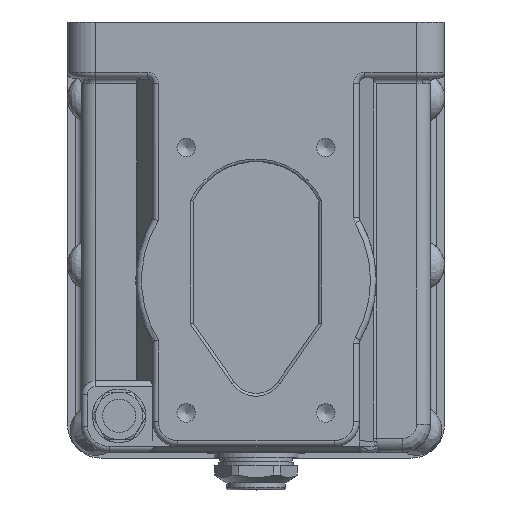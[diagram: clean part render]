
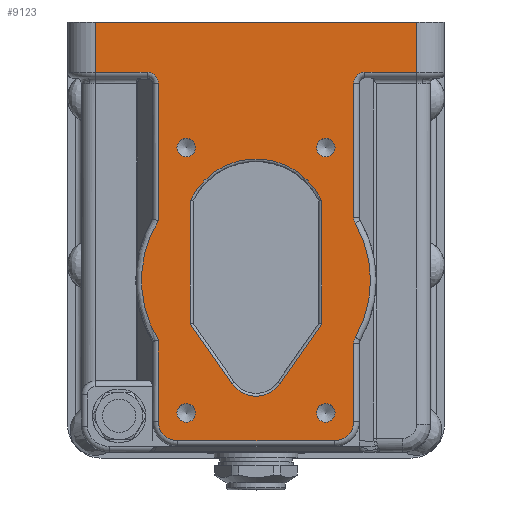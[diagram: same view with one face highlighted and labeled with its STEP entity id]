
A CAD part, top view. The second image highlights one B-rep face of the part: STEP entity #9123.
In plain terms, the highlighted planar face has unit normal (0, 0, 1).
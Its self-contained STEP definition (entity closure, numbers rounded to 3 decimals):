
#6096=CARTESIAN_POINT('',(-21.676,-65.,145.0));
#6097=VERTEX_POINT('',#6096);
#6098=CARTESIAN_POINT('',(-25.,-65.,145.0));
#6099=DIRECTION('',(0.0,0.0,-1.0));
#6100=DIRECTION('',(1.0,0.0,0.0));
#6101=AXIS2_PLACEMENT_3D('',#6098,#6099,#6100);
#6102=CIRCLE('',#6101,3.324);
#6103=EDGE_CURVE('',#6097,#6097,#6102,.T.);
#6133=CARTESIAN_POINT('',(-21.677,30.,145.0));
#6134=VERTEX_POINT('',#6133);
#6135=CARTESIAN_POINT('',(-25.,30.,145.0));
#6136=DIRECTION('',(0.0,0.0,-1.0));
#6137=DIRECTION('',(1.0,0.0,0.0));
#6138=AXIS2_PLACEMENT_3D('',#6135,#6136,#6137);
#6139=CIRCLE('',#6138,3.324);
#6140=EDGE_CURVE('',#6134,#6134,#6139,.T.);
#6170=CARTESIAN_POINT('',(28.323,30.0,145.0));
#6171=VERTEX_POINT('',#6170);
#6172=CARTESIAN_POINT('',(25.0,30.0,145.0));
#6173=DIRECTION('',(0.0,0.0,-1.0));
#6174=DIRECTION('',(1.0,0.0,0.0));
#6175=AXIS2_PLACEMENT_3D('',#6172,#6173,#6174);
#6176=CIRCLE('',#6175,3.324);
#6177=EDGE_CURVE('',#6171,#6171,#6176,.T.);
#6207=CARTESIAN_POINT('',(28.324,-65.,145.0));
#6208=VERTEX_POINT('',#6207);
#6209=CARTESIAN_POINT('',(25.,-65.,145.0));
#6210=DIRECTION('',(0.0,0.0,-1.0));
#6211=DIRECTION('',(1.0,0.0,0.0));
#6212=AXIS2_PLACEMENT_3D('',#6209,#6210,#6211);
#6213=CIRCLE('',#6212,3.324);
#6214=EDGE_CURVE('',#6208,#6208,#6213,.T.);
#8881=CARTESIAN_POINT('',(-28.,-75.,145.0));
#8882=VERTEX_POINT('',#8881);
#8883=CARTESIAN_POINT('',(-35.,-68.0,145.0));
#8884=VERTEX_POINT('',#8883);
#8885=CARTESIAN_POINT('',(-28.,-68.,145.0));
#8886=DIRECTION('',(0.0,0.0,-1.0));
#8887=DIRECTION('',(-0.707,-0.707,0.0));
#8888=AXIS2_PLACEMENT_3D('',#8885,#8886,#8887);
#8889=CIRCLE('',#8888,7.);
#8890=EDGE_CURVE('',#8882,#8884,#8889,.T.);
#8910=CARTESIAN_POINT('',(-38.753,-17.5,145.0));
#8911=DIRECTION('',(0.0,0.0,1.0));
#8912=DIRECTION('',(1.0,0.0,0.0));
#8913=AXIS2_PLACEMENT_3D('',#8910,#8911,#8912);
#8914=PLANE('',#8913);
#8915=CARTESIAN_POINT('',(35.,-68.,145.0));
#8916=VERTEX_POINT('',#8915);
#8917=CARTESIAN_POINT('',(28.,-75.,145.0));
#8918=VERTEX_POINT('',#8917);
#8919=CARTESIAN_POINT('',(28.,-68.,145.0));
#8920=DIRECTION('',(0.0,0.0,-1.0));
#8921=DIRECTION('',(0.707,-0.707,0.0));
#8922=AXIS2_PLACEMENT_3D('',#8919,#8920,#8921);
#8923=CIRCLE('',#8922,7.);
#8924=EDGE_CURVE('',#8916,#8918,#8923,.T.);
#8925=ORIENTED_EDGE('',*,*,#8924,.F.);
#8926=CARTESIAN_POINT('',(35.,-39.95,145.0));
#8927=VERTEX_POINT('',#8926);
#8928=CARTESIAN_POINT('',(35.,-39.95,145.0));
#8929=DIRECTION('',(0.0,-1.0,0.0));
#8930=VECTOR('',#8929,28.05);
#8931=LINE('',#8928,#8930);
#8932=EDGE_CURVE('',#8927,#8916,#8931,.T.);
#8933=ORIENTED_EDGE('',*,*,#8932,.F.);
#8934=CARTESIAN_POINT('',(35.533,-37.954,145.0));
#8935=VERTEX_POINT('',#8934);
#8936=CARTESIAN_POINT('',(39.,-39.95,145.0));
#8937=DIRECTION('',(0.0,0.0,1.0));
#8938=DIRECTION('',(-0.966,0.258,0.0));
#8939=AXIS2_PLACEMENT_3D('',#8936,#8937,#8938);
#8940=CIRCLE('',#8939,4.0);
#8941=EDGE_CURVE('',#8935,#8927,#8940,.T.);
#8942=ORIENTED_EDGE('',*,*,#8941,.F.);
#8943=CARTESIAN_POINT('',(35.533,2.954,145.0));
#8944=VERTEX_POINT('',#8943);
#8945=CARTESIAN_POINT('',(0.0,-17.5,145.0));
#8946=DIRECTION('',(0.0,0.0,-1.0));
#8947=DIRECTION('',(1.0,0.0,0.0));
#8948=AXIS2_PLACEMENT_3D('',#8945,#8946,#8947);
#8949=CIRCLE('',#8948,41.0);
#8950=EDGE_CURVE('',#8944,#8935,#8949,.T.);
#8951=ORIENTED_EDGE('',*,*,#8950,.F.);
#8952=CARTESIAN_POINT('',(35.,4.95,145.0));
#8953=VERTEX_POINT('',#8952);
#8954=CARTESIAN_POINT('',(39.,4.95,145.0));
#8955=DIRECTION('',(0.0,0.0,1.0));
#8956=DIRECTION('',(-0.966,-0.258,0.0));
#8957=AXIS2_PLACEMENT_3D('',#8954,#8955,#8956);
#8958=CIRCLE('',#8957,4.0);
#8959=EDGE_CURVE('',#8953,#8944,#8958,.T.);
#8960=ORIENTED_EDGE('',*,*,#8959,.F.);
#8961=CARTESIAN_POINT('',(35.,53.,145.0));
#8962=VERTEX_POINT('',#8961);
#8963=CARTESIAN_POINT('',(35.0,53.,145.0));
#8964=DIRECTION('',(0.0,-1.0,0.0));
#8965=VECTOR('',#8964,48.05);
#8966=LINE('',#8963,#8965);
#8967=EDGE_CURVE('',#8962,#8953,#8966,.T.);
#8968=ORIENTED_EDGE('',*,*,#8967,.F.);
#8969=CARTESIAN_POINT('',(39.0,57.,145.0));
#8970=VERTEX_POINT('',#8969);
#8971=CARTESIAN_POINT('',(39.0,53.,145.0));
#8972=DIRECTION('',(0.0,0.0,1.0));
#8973=DIRECTION('',(-0.707,0.707,0.0));
#8974=AXIS2_PLACEMENT_3D('',#8971,#8972,#8973);
#8975=CIRCLE('',#8974,4.);
#8976=EDGE_CURVE('',#8970,#8962,#8975,.T.);
#8977=ORIENTED_EDGE('',*,*,#8976,.F.);
#8978=CARTESIAN_POINT('',(57.5,57.,145.0));
#8979=VERTEX_POINT('',#8978);
#8980=CARTESIAN_POINT('',(57.5,57.,145.0));
#8981=DIRECTION('',(-1.0,0.0,0.0));
#8982=VECTOR('',#8981,18.5);
#8983=LINE('',#8980,#8982);
#8984=EDGE_CURVE('',#8979,#8970,#8983,.T.);
#8985=ORIENTED_EDGE('',*,*,#8984,.F.);
#8986=CARTESIAN_POINT('',(57.5,75.,145.0));
#8987=VERTEX_POINT('',#8986);
#8988=CARTESIAN_POINT('',(57.5,75.,145.0));
#8989=DIRECTION('',(0.0,-1.0,0.0));
#8990=VECTOR('',#8989,18.);
#8991=LINE('',#8988,#8990);
#8992=EDGE_CURVE('',#8987,#8979,#8991,.T.);
#8993=ORIENTED_EDGE('',*,*,#8992,.F.);
#8994=CARTESIAN_POINT('',(-57.5,75.,145.));
#8995=VERTEX_POINT('',#8994);
#8996=CARTESIAN_POINT('',(-57.5,75.,145.));
#8997=DIRECTION('',(1.0,0.0,0.0));
#8998=VECTOR('',#8997,115.0);
#8999=LINE('',#8996,#8998);
#9000=EDGE_CURVE('',#8995,#8987,#8999,.T.);
#9001=ORIENTED_EDGE('',*,*,#9000,.F.);
#9002=CARTESIAN_POINT('',(-57.5,57.,145.));
#9003=VERTEX_POINT('',#9002);
#9004=CARTESIAN_POINT('',(-57.5,75.,145.));
#9005=DIRECTION('',(0.0,-1.0,0.0));
#9006=VECTOR('',#9005,18.);
#9007=LINE('',#9004,#9006);
#9008=EDGE_CURVE('',#8995,#9003,#9007,.T.);
#9009=ORIENTED_EDGE('',*,*,#9008,.T.);
#9010=CARTESIAN_POINT('',(-39.,57.,145.0));
#9011=VERTEX_POINT('',#9010);
#9012=CARTESIAN_POINT('',(-39.,57.,145.0));
#9013=DIRECTION('',(-1.0,0.0,0.0));
#9014=VECTOR('',#9013,18.5);
#9015=LINE('',#9012,#9014);
#9016=EDGE_CURVE('',#9011,#9003,#9015,.T.);
#9017=ORIENTED_EDGE('',*,*,#9016,.F.);
#9018=CARTESIAN_POINT('',(-35.,53.,145.0));
#9019=VERTEX_POINT('',#9018);
#9020=CARTESIAN_POINT('',(-39.,53.,145.0));
#9021=DIRECTION('',(0.0,0.0,1.0));
#9022=DIRECTION('',(0.707,0.707,0.0));
#9023=AXIS2_PLACEMENT_3D('',#9020,#9021,#9022);
#9024=CIRCLE('',#9023,4.);
#9025=EDGE_CURVE('',#9019,#9011,#9024,.T.);
#9026=ORIENTED_EDGE('',*,*,#9025,.F.);
#9027=CARTESIAN_POINT('',(-35.,3.854,145.0));
#9028=VERTEX_POINT('',#9027);
#9029=CARTESIAN_POINT('',(-35.0,3.854,145.0));
#9030=DIRECTION('',(0.0,1.0,0.0));
#9031=VECTOR('',#9030,49.146);
#9032=LINE('',#9029,#9031);
#9033=EDGE_CURVE('',#9028,#9019,#9032,.T.);
#9034=ORIENTED_EDGE('',*,*,#9033,.F.);
#9035=CARTESIAN_POINT('',(-35.,-38.854,145.0));
#9036=VERTEX_POINT('',#9035);
#9037=CARTESIAN_POINT('',(0.0,-17.5,145.0));
#9038=DIRECTION('',(0.0,0.0,-1.0));
#9039=DIRECTION('',(-1.0,0.0,0.0));
#9040=AXIS2_PLACEMENT_3D('',#9037,#9038,#9039);
#9041=CIRCLE('',#9040,41.0);
#9042=EDGE_CURVE('',#9036,#9028,#9041,.T.);
#9043=ORIENTED_EDGE('',*,*,#9042,.F.);
#9044=CARTESIAN_POINT('',(-35.,-68.0,145.0));
#9045=DIRECTION('',(0.0,1.0,0.0));
#9046=VECTOR('',#9045,29.146);
#9047=LINE('',#9044,#9046);
#9048=EDGE_CURVE('',#8884,#9036,#9047,.T.);
#9049=ORIENTED_EDGE('',*,*,#9048,.F.);
#9050=ORIENTED_EDGE('',*,*,#8890,.F.);
#9051=CARTESIAN_POINT('',(28.,-75.,145.0));
#9052=DIRECTION('',(-1.0,0.0,0.0));
#9053=VECTOR('',#9052,56.);
#9054=LINE('',#9051,#9053);
#9055=EDGE_CURVE('',#8918,#8882,#9054,.T.);
#9056=ORIENTED_EDGE('',*,*,#9055,.F.);
#9057=EDGE_LOOP('',(#8925,#8933,#8942,#8951,#8960,#8968,#8977,#8985,#8993,#9001,#9009,#9017,#9026,#9034,#9043,#9049,#9050,#9056));
#9058=FACE_OUTER_BOUND('',#9057,.T.);
#9059=ORIENTED_EDGE('',*,*,#6103,.T.);
#9060=EDGE_LOOP('',(#9059));
#9061=FACE_BOUND('',#9060,.T.);
#9062=ORIENTED_EDGE('',*,*,#6140,.T.);
#9063=EDGE_LOOP('',(#9062));
#9064=FACE_BOUND('',#9063,.T.);
#9065=ORIENTED_EDGE('',*,*,#6177,.T.);
#9066=EDGE_LOOP('',(#9065));
#9067=FACE_BOUND('',#9066,.T.);
#9068=ORIENTED_EDGE('',*,*,#6214,.T.);
#9069=EDGE_LOOP('',(#9068));
#9070=FACE_BOUND('',#9069,.T.);
#9071=CARTESIAN_POINT('',(8.601,-54.523,145.0));
#9072=VERTEX_POINT('',#9071);
#9073=CARTESIAN_POINT('',(23.5,-33.245,145.0));
#9074=VERTEX_POINT('',#9073);
#9075=CARTESIAN_POINT('',(8.601,-54.523,145.0));
#9076=DIRECTION('',(0.574,0.819,0.0));
#9077=VECTOR('',#9076,25.975);
#9078=LINE('',#9075,#9077);
#9079=EDGE_CURVE('',#9072,#9074,#9078,.T.);
#9080=ORIENTED_EDGE('',*,*,#9079,.F.);
#9081=CARTESIAN_POINT('',(-8.601,-54.523,145.0));
#9082=VERTEX_POINT('',#9081);
#9083=CARTESIAN_POINT('',(0.0,-48.5,145.0));
#9084=DIRECTION('',(0.0,0.0,1.0));
#9085=DIRECTION('',(0.0,-1.0,0.0));
#9086=AXIS2_PLACEMENT_3D('',#9083,#9084,#9085);
#9087=CIRCLE('',#9086,10.5);
#9088=EDGE_CURVE('',#9082,#9072,#9087,.T.);
#9089=ORIENTED_EDGE('',*,*,#9088,.F.);
#9090=CARTESIAN_POINT('',(-23.5,-33.245,145.0));
#9091=VERTEX_POINT('',#9090);
#9092=CARTESIAN_POINT('',(-23.5,-33.245,145.0));
#9093=DIRECTION('',(0.574,-0.819,0.0));
#9094=VECTOR('',#9093,25.975);
#9095=LINE('',#9092,#9094);
#9096=EDGE_CURVE('',#9091,#9082,#9095,.T.);
#9097=ORIENTED_EDGE('',*,*,#9096,.F.);
#9098=CARTESIAN_POINT('',(-23.5,11.124,145.0));
#9099=VERTEX_POINT('',#9098);
#9100=CARTESIAN_POINT('',(-23.5,11.124,145.0));
#9101=DIRECTION('',(0.0,-1.0,0.0));
#9102=VECTOR('',#9101,44.369);
#9103=LINE('',#9100,#9102);
#9104=EDGE_CURVE('',#9099,#9091,#9103,.T.);
#9105=ORIENTED_EDGE('',*,*,#9104,.F.);
#9106=CARTESIAN_POINT('',(23.5,11.124,145.0));
#9107=VERTEX_POINT('',#9106);
#9108=CARTESIAN_POINT('',(0.0,0.0,145.0));
#9109=DIRECTION('',(0.0,0.0,1.0));
#9110=DIRECTION('',(0.0,1.0,0.0));
#9111=AXIS2_PLACEMENT_3D('',#9108,#9109,#9110);
#9112=CIRCLE('',#9111,26.);
#9113=EDGE_CURVE('',#9107,#9099,#9112,.T.);
#9114=ORIENTED_EDGE('',*,*,#9113,.F.);
#9115=CARTESIAN_POINT('',(23.5,-33.245,145.0));
#9116=DIRECTION('',(0.0,1.0,0.0));
#9117=VECTOR('',#9116,44.369);
#9118=LINE('',#9115,#9117);
#9119=EDGE_CURVE('',#9074,#9107,#9118,.T.);
#9120=ORIENTED_EDGE('',*,*,#9119,.F.);
#9121=EDGE_LOOP('',(#9080,#9089,#9097,#9105,#9114,#9120));
#9122=FACE_BOUND('',#9121,.T.);
#9123=ADVANCED_FACE('',(#9058,#9061,#9064,#9067,#9070,#9122),#8914,.T.);
